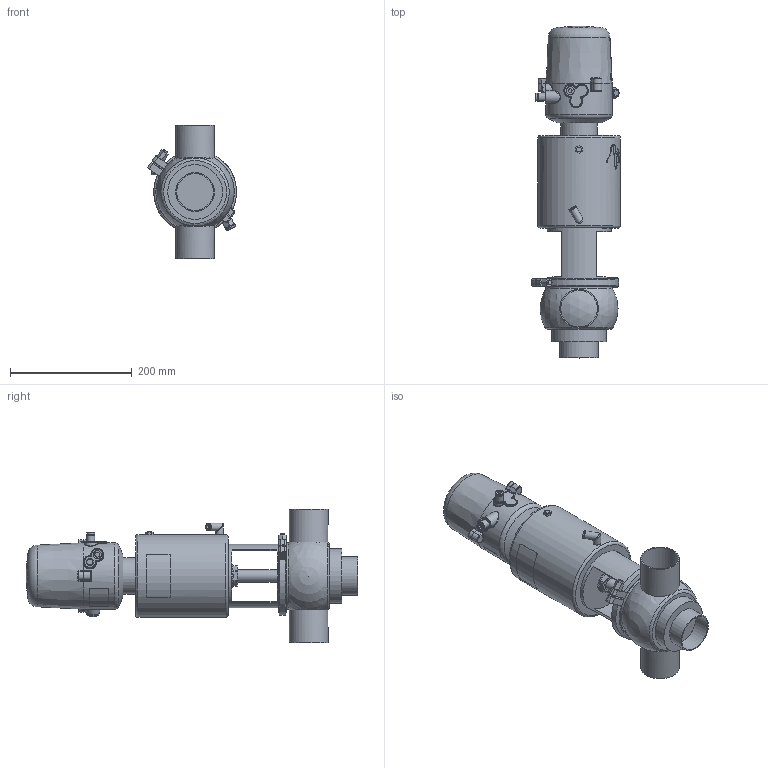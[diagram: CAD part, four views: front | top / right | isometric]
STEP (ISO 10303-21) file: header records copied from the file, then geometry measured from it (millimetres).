
FILE_DESCRIPTION (( 'STEP AP214' ), '1' );
FILE_NAME ('INNOVA N T W OD 2½ T3 AS NC & C-TOP S_10.240.16.0058.STEP', '2024-08-06T08:17:35', ( '' ), ( '' ), 'SwSTEP 2.0', 'SolidWorks 2023', '' );
FILE_SCHEMA (( 'AUTOMOTIVE_DESIGN' ));
Length unit declared in the file: millimetre
Products named in the file (7): 10.240.15.0003_OD 2½"; INNOVA N T W OD 2½ T3 AS NC & C-TOP S_10.240.16.0058; 10.240.15.0014_T3 AS P0; 10.240.15.0017_Estàndard; 10.426.15.0001_C-TOP S - 1 EV; 10.240.15.0001_DN 065; 10.240.15.0010_DN 065
Assembly tree (6 placements, depth 2):
  INNOVA N T W OD 2½ T3 AS NC & C-TOP S_10.240.16.0058
    10.240.15.0003_OD 2½"
    10.240.15.0010_DN 065
    10.240.15.0014_T3 AS P0
    10.240.15.0017_Estàndard
    10.426.15.0001_C-TOP S - 1 EV
    10.240.15.0001_DN 065
Bounding box: 146.15 x 545.5 x 220 mm (x, y, z)
Volume: 4949224.7 mm3; surface area: 382996.2 mm2
Topology: 6 solids, 6 shells, 1103 faces, 2655 edges, 1772 vertices
Faces by surface type: plane 376, cylinder 332, cone 191, bspline 160, torus 37, sphere 7
Full cylindrical faces by diameter (mm): 0.371 x17, 0.512 x16, 0.658 x16, 0.795 x16, 0.94 x15, 1.098 x15, 1.241 x13, 1.382 x13, 1.523 x11, 1.669 x10, 2.201 x1, 4 x2, 5.5 x2, 6 x2, 6.15 x1, 8 x4, 8.5 x1, 10 x1, 10.5 x1, 11 x2, 12.5 x3, 13 x2, 13.5 x2, 16 x1, 17 x3, 20 x3, 20.5 x1, 22 x2, 31 x1, 34.5 x3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
Entity records: 57862 total; most frequent: CARTESIAN_POINT 27839, ORIENTED_EDGE 4498, DIRECTION 3611, EDGE_CURVE 2249, VERTEX_POINT 1598, EDGE_LOOP 1553, AXIS2_PLACEMENT_3D 1477, FACE_OUTER_BOUND 1317
